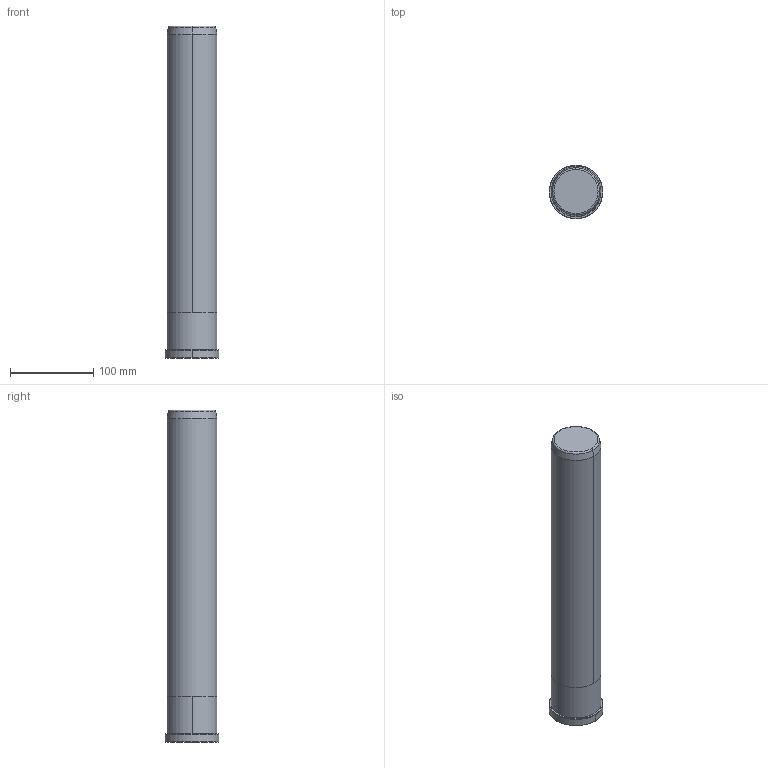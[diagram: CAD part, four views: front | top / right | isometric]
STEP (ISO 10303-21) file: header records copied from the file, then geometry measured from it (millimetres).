
FILE_DESCRIPTION((''),'2;1');
FILE_NAME('B80860400','2018-01-06T',('MANU'),(''),'PRO/ENGINEER BY PARAMETRIC TECHNOLOGY CORPORATION, 2012130','PRO/ENGINEER BY PARAMETRIC TECHNOLOGY CORPORATION, 2012130','');
FILE_SCHEMA(('CONFIG_CONTROL_DESIGN'));
Length unit declared in the file: millimetre
Products named in the file (1): B80860400
Bounding box: 65 x 65 x 400 mm (x, y, z)
Volume: 1134187.9 mm3; surface area: 81623.3 mm2
Topology: 1 solids, 1 shells, 18 faces, 34 edges, 20 vertices
Faces by surface type: cone 6, cylinder 6, plane 4, torus 2
Entity records: 494 total; most frequent: DIRECTION 92, CARTESIAN_POINT 72, ORIENTED_EDGE 68, AXIS2_PLACEMENT_3D 40, EDGE_CURVE 34, CIRCLE 22, VERTEX_POINT 20, EDGE_LOOP 20
